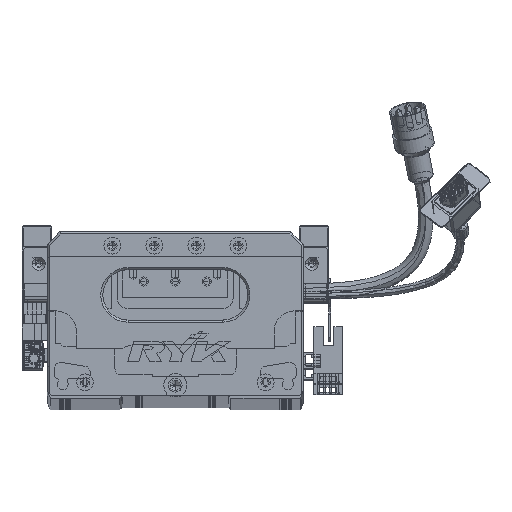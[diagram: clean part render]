
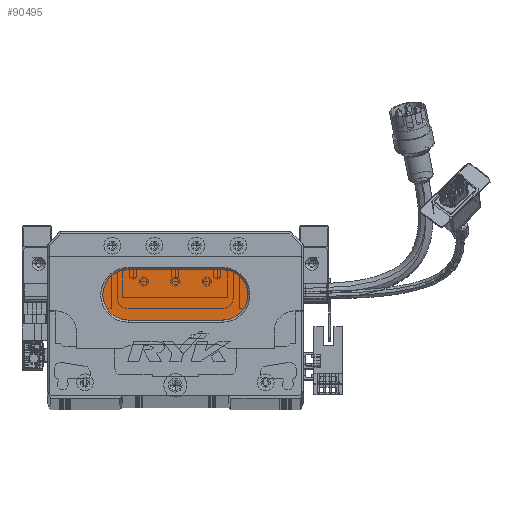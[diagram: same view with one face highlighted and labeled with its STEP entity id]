
A CAD part, top view. The second image highlights one B-rep face of the part: STEP entity #90495.
In plain terms, the highlighted planar face has unit normal (0, 0, 1) as drawn and (0, 0, -1) by its records, which use the part's own axes.
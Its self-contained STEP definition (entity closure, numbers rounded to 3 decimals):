
#426 = EDGE_CURVE ( 'NONE', #138937, #98889, #17733, .T. ) ;
#9735 = DIRECTION ( 'NONE',  ( -1., 0., 0. ) ) ;
#10215 = FACE_OUTER_BOUND ( 'NONE', #43561, .T. ) ;
#13848 = VERTEX_POINT ( 'NONE', #68256 ) ;
#15053 = ORIENTED_EDGE ( 'NONE', *, *, #121254, .T. ) ;
#17733 = CIRCLE ( 'NONE', #108600, 12. ) ;
#20751 = CARTESIAN_POINT ( 'NONE',  ( 83.5, 36., 13. ) ) ;
#22879 = VECTOR ( 'NONE', #107200, 1000. ) ;
#25087 = DIRECTION ( 'NONE',  ( -1., 0., 0. ) ) ;
#27517 = AXIS2_PLACEMENT_3D ( 'NONE', #54187, #53244, #9735 ) ;
#27537 = DIRECTION ( 'NONE',  ( -1., 0., 0. ) ) ;
#31497 = CARTESIAN_POINT ( 'NONE',  ( 83.5, 60., 13. ) ) ;
#32810 = DIRECTION ( 'NONE',  ( -1., 0., 0. ) ) ;
#36867 = CARTESIAN_POINT ( 'NONE',  ( 26.5, 48., 13. ) ) ;
#39348 = CARTESIAN_POINT ( 'NONE',  ( 83.5, 48., 13. ) ) ;
#40262 = PLANE ( 'NONE',  #118729 ) ;
#43561 = EDGE_LOOP ( 'NONE', ( #99148, #15053, #74743, #61001, #104156 ) ) ;
#48339 = CARTESIAN_POINT ( 'NONE',  ( 38.5, 48., 13. ) ) ;
#53244 = DIRECTION ( 'NONE',  ( 0., 0., -1. ) ) ;
#54187 = CARTESIAN_POINT ( 'NONE',  ( 38.5, 48., 13. ) ) ;
#61001 = ORIENTED_EDGE ( 'NONE', *, *, #426, .T. ) ;
#68256 = CARTESIAN_POINT ( 'NONE',  ( 83.5, 60., 13. ) ) ;
#69000 = VERTEX_POINT ( 'NONE', #140344 ) ;
#74302 = EDGE_CURVE ( 'NONE', #69000, #138937, #80935, .T. ) ;
#74743 = ORIENTED_EDGE ( 'NONE', *, *, #74302, .T. ) ;
#75527 = LINE ( 'NONE', #31497, #22879 ) ;
#80726 = EDGE_CURVE ( 'NONE', #98889, #13848, #75527, .T. ) ;
#80935 = CIRCLE ( 'NONE', #27517, 12. ) ;
#83620 = CARTESIAN_POINT ( 'NONE',  ( 38.5, 60., 13. ) ) ;
#83829 = VERTEX_POINT ( 'NONE', #134006 ) ;
#90495 = ADVANCED_FACE ( 'NONE', ( #10215 ), #40262, .T. ) ;
#91041 = CIRCLE ( 'NONE', #101273, 12. ) ;
#91195 = VECTOR ( 'NONE', #32810, 1000. ) ;
#93295 = DIRECTION ( 'NONE',  ( -1., 0., 0. ) ) ;
#98889 = VERTEX_POINT ( 'NONE', #83620 ) ;
#99148 = ORIENTED_EDGE ( 'NONE', *, *, #134481, .T. ) ;
#101273 = AXIS2_PLACEMENT_3D ( 'NONE', #122536, #111211, #25087 ) ;
#104156 = ORIENTED_EDGE ( 'NONE', *, *, #80726, .T. ) ;
#107200 = DIRECTION ( 'NONE',  ( 1., 0., 0. ) ) ;
#108600 = AXIS2_PLACEMENT_3D ( 'NONE', #48339, #114112, #27537 ) ;
#111211 = DIRECTION ( 'NONE',  ( 0., 0., -1. ) ) ;
#114112 = DIRECTION ( 'NONE',  ( 0., 0., -1. ) ) ;
#116532 = LINE ( 'NONE', #20751, #91195 ) ;
#118729 = AXIS2_PLACEMENT_3D ( 'NONE', #39348, #125897, #93295 ) ;
#121254 = EDGE_CURVE ( 'NONE', #83829, #69000, #116532, .T. ) ;
#122536 = CARTESIAN_POINT ( 'NONE',  ( 83.5, 48., 13. ) ) ;
#125897 = DIRECTION ( 'NONE',  ( 0., 0., -1. ) ) ;
#134006 = CARTESIAN_POINT ( 'NONE',  ( 83.5, 36., 13. ) ) ;
#134481 = EDGE_CURVE ( 'NONE', #13848, #83829, #91041, .T. ) ;
#138937 = VERTEX_POINT ( 'NONE', #36867 ) ;
#140344 = CARTESIAN_POINT ( 'NONE',  ( 38.5, 36., 13. ) ) ;
